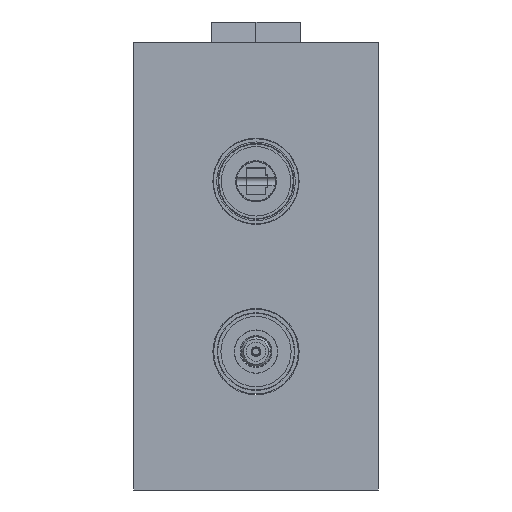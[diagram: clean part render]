
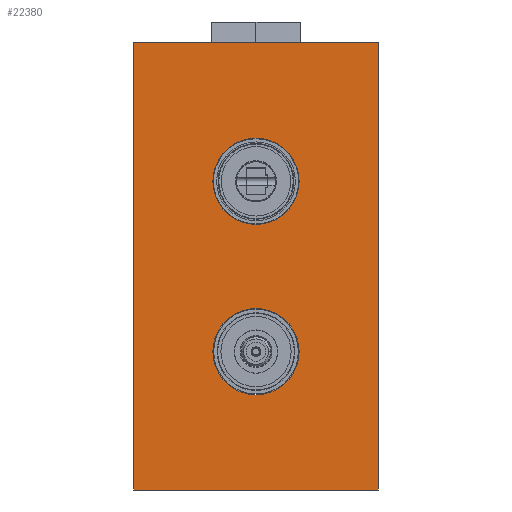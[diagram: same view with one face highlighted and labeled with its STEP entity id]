
A CAD part, front view. The second image highlights one B-rep face of the part: STEP entity #22380.
In plain terms, the highlighted planar face has unit normal (0, -1, 0).
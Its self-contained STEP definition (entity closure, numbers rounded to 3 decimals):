
#22199=DIRECTION('',(0.,0.,1.));
#22200=VECTOR('',#22199,210.);
#22201=CARTESIAN_POINT('',(-57.5,0.,-105.));
#22202=LINE('',#22201,#22200);
#22203=DIRECTION('',(1.,0.,0.));
#22204=VECTOR('',#22203,115.);
#22205=CARTESIAN_POINT('',(-57.5,0.,105.));
#22206=LINE('',#22205,#22204);
#22207=DIRECTION('',(0.,0.,-1.));
#22208=VECTOR('',#22207,210.);
#22209=CARTESIAN_POINT('',(57.5,0.,105.));
#22210=LINE('',#22209,#22208);
#22211=DIRECTION('',(-1.,0.,0.));
#22212=VECTOR('',#22211,115.);
#22213=CARTESIAN_POINT('',(57.5,0.,-105.));
#22214=LINE('',#22213,#22212);
#22215=CARTESIAN_POINT('',(0.,0.,-40.));
#22216=DIRECTION('',(0.,1.,0.));
#22217=DIRECTION('',(1.,0.,0.));
#22218=AXIS2_PLACEMENT_3D('',#22215,#22216,#22217);
#22220=CARTESIAN_POINT('',(0.,0.,-40.));
#22221=DIRECTION('',(0.,1.,0.));
#22222=DIRECTION('',(-1.,0.,0.));
#22223=AXIS2_PLACEMENT_3D('',#22220,#22221,#22222);
#22225=CARTESIAN_POINT('',(0.,0.,40.));
#22226=DIRECTION('',(0.,1.,0.));
#22227=DIRECTION('',(1.,0.,0.));
#22228=AXIS2_PLACEMENT_3D('',#22225,#22226,#22227);
#22230=CARTESIAN_POINT('',(0.,0.,40.));
#22231=DIRECTION('',(0.,1.,0.));
#22232=DIRECTION('',(-1.,0.,0.));
#22233=AXIS2_PLACEMENT_3D('',#22230,#22231,#22232);
#22317=CARTESIAN_POINT('',(-57.5,0.,-105.));
#22318=CARTESIAN_POINT('',(-57.5,0.,105.));
#22319=VERTEX_POINT('',#22317);
#22320=VERTEX_POINT('',#22318);
#22321=CARTESIAN_POINT('',(57.5,0.,105.));
#22322=CARTESIAN_POINT('',(57.5,0.,-105.));
#22323=VERTEX_POINT('',#22321);
#22324=VERTEX_POINT('',#22322);
#22329=CARTESIAN_POINT('',(20.25,0.,-40.));
#22330=CARTESIAN_POINT('',(-20.25,0.,-40.));
#22331=VERTEX_POINT('',#22329);
#22332=VERTEX_POINT('',#22330);
#22333=CARTESIAN_POINT('',(20.25,0.,40.));
#22334=CARTESIAN_POINT('',(-20.25,0.,40.));
#22335=VERTEX_POINT('',#22333);
#22336=VERTEX_POINT('',#22334);
#22353=CARTESIAN_POINT('',(0.,0.,0.));
#22354=DIRECTION('',(0.,1.,0.));
#22355=DIRECTION('',(1.,0.,0.));
#22356=AXIS2_PLACEMENT_3D('',#22353,#22354,#22355);
#22357=PLANE('',#22356);
#22359=ORIENTED_EDGE('',*,*,#22358,.T.);
#22361=ORIENTED_EDGE('',*,*,#22360,.T.);
#22363=ORIENTED_EDGE('',*,*,#22362,.T.);
#22365=ORIENTED_EDGE('',*,*,#22364,.T.);
#22366=EDGE_LOOP('',(#22359,#22361,#22363,#22365));
#22367=FACE_OUTER_BOUND('',#22366,.F.);
#22369=ORIENTED_EDGE('',*,*,#22368,.F.);
#22371=ORIENTED_EDGE('',*,*,#22370,.F.);
#22372=EDGE_LOOP('',(#22369,#22371));
#22373=FACE_BOUND('',#22372,.F.);
#22375=ORIENTED_EDGE('',*,*,#22374,.F.);
#22377=ORIENTED_EDGE('',*,*,#22376,.F.);
#22378=EDGE_LOOP('',(#22375,#22377));
#22379=FACE_BOUND('',#22378,.F.);
#22380=ADVANCED_FACE('',(#22367,#22373,#22379),#22357,.F.);
#22219=CIRCLE('',#22218,20.25);
#22224=CIRCLE('',#22223,20.25);
#22229=CIRCLE('',#22228,20.25);
#22234=CIRCLE('',#22233,20.25);
#22358=EDGE_CURVE('',#22319,#22320,#22202,.T.);
#22360=EDGE_CURVE('',#22320,#22323,#22206,.T.);
#22362=EDGE_CURVE('',#22323,#22324,#22210,.T.);
#22364=EDGE_CURVE('',#22324,#22319,#22214,.T.);
#22368=EDGE_CURVE('',#22331,#22332,#22219,.T.);
#22370=EDGE_CURVE('',#22332,#22331,#22224,.T.);
#22374=EDGE_CURVE('',#22335,#22336,#22229,.T.);
#22376=EDGE_CURVE('',#22336,#22335,#22234,.T.);
